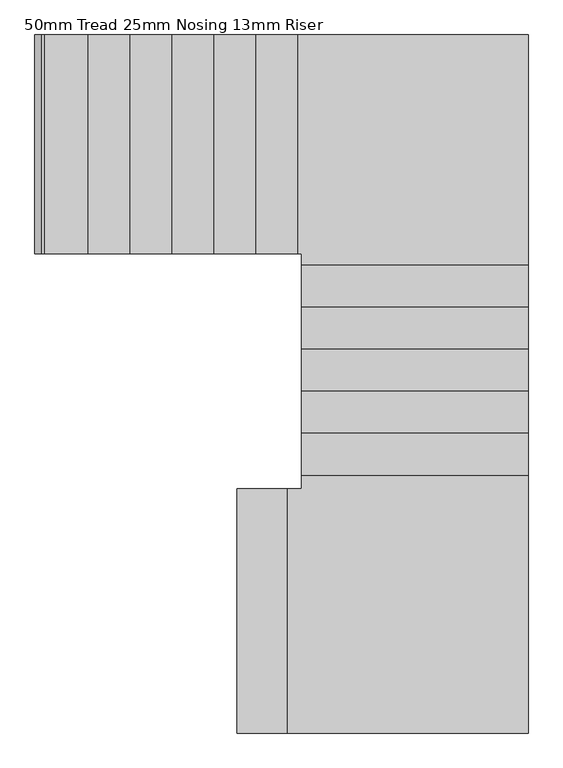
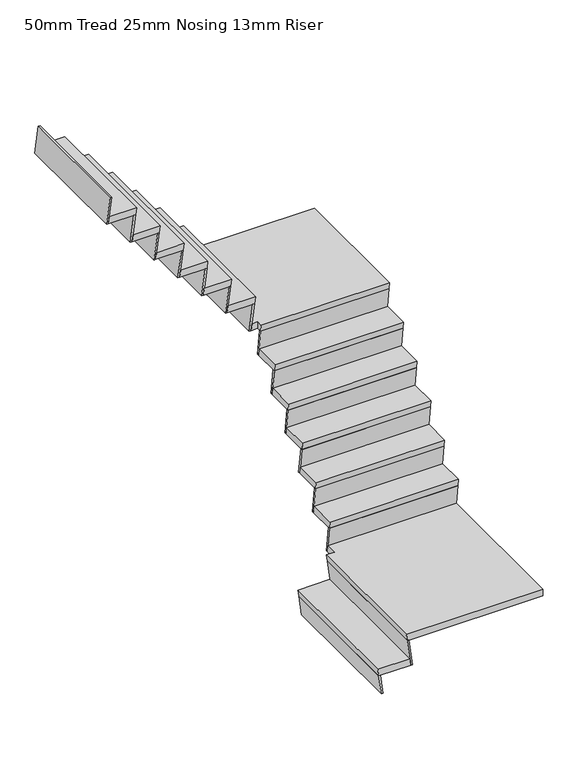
"""IFC4 building model written with IfcOpenShell, lengths in millimetres: stair flight geometry, 50mm Tread 25mm Nosing 13mm Riser."""

from ifc_helpers import new_model, si_unit, origin, place, context, project, spatial, faceted_brep, source, transform, mapped, element, save


def stair_flight_50mm_tread_25mm_nosing_13mm_riser_2104a416(model_context):
    return source(origin(), model_context, "Body", "Brep", [
        faceted_brep([(869.2, -190.5, 193.04), (875.6753419, -190.5, 143.04), (875.6753419, 793.75, 143.04), (869.2, 793.75, 193.04), (641.0, 793.75, 193.04), (641.0, -190.5, 193.04), (647.4753419, -190.5, 143.04), (647.4753419, 793.75, 143.04)], [[[0, 1, 2, 3]], [[3, 4, 5, 0]], [[2, 1, 6, 7]], [[4, 3, 2, 7]], [[0, 5, 6, 1]], [[5, 4, 7, 6]]]),
        faceted_brep([(647.4753419, -190.5, 143.04), (666.0, -190.5, 0.0), (678.6043892, -190.5, 0.0), (660.0797311, -190.5, 143.04), (647.4753419, 793.75, 143.04), (660.0797311, 793.75, 143.04), (678.6043892, 793.75, 0.0), (666.0, 793.75, 0.0)], [[[0, 1, 2, 3]], [[4, 5, 6, 7]], [[1, 0, 4, 7]], [[2, 1, 7, 6]], [[3, 2, 6, 5]], [[0, 3, 5, 4]]]),
        faceted_brep([(850.6753419, -190.5, 336.08), (875.6753419, -190.5, 143.04), (888.2797311, -190.5, 143.04), (863.2797311, -190.5, 336.08), (850.6753419, 793.75, 336.08), (863.2797311, 793.75, 336.08), (888.2797311, 793.75, 143.04), (875.6753419, 793.75, 143.04)], [[[0, 1, 2, 3]], [[4, 5, 6, 7]], [[1, 0, 4, 7]], [[2, 1, 7, 6]], [[3, 2, 6, 5]], [[0, 3, 5, 4]]]),
        faceted_brep([(900.5, 874.3879055, 386.08), (900.5, 793.75, 386.08), (844.2, 793.75, 386.08), (844.2, -190.5, 386.08), (1814.9, -190.5, 386.08), (1814.9, 874.3879055, 386.08), (900.5, 880.8632474, 336.08), (1814.9, 880.8632474, 336.08), (1814.9, -190.5, 336.08), (850.6753419, -190.5, 336.08), (850.6753419, 793.75, 336.08), (900.5, 793.75, 336.08)], [[[0, 1, 2, 3, 4, 5]], [[6, 7, 8, 9, 10, 11]], [[1, 0, 6, 11]], [[4, 3, 9, 8]], [[5, 7, 6, 0]], [[3, 2, 10, 9]], [[2, 1, 11, 10]], [[5, 4, 8, 7]]]),
        faceted_brep([(1814.9, 1703.2298052, 1494.32), (1814.9, 1728.2298052, 1301.28), (1814.9, 1740.8341944, 1301.28), (1814.9, 1715.8341944, 1494.32), (900.5, 1703.2298052, 1494.32), (900.5, 1715.8341944, 1494.32), (900.5, 1740.8341944, 1301.28), (900.5, 1728.2298052, 1301.28)], [[[0, 1, 2, 3]], [[4, 5, 6, 7]], [[1, 0, 4, 7]], [[2, 1, 7, 6]], [[3, 2, 6, 5]], [[0, 3, 5, 4]]]),
        faceted_brep([(860.0268473, 1739.9, 1544.32), (900.5, 1739.9, 1544.32), (900.5, 1696.7544633, 1544.32), (1814.9, 1696.7544633, 1544.32), (1814.9, 2622.55, 1544.32), (860.0268473, 2622.55, 1544.32), (853.5515054, 1739.9, 1494.32), (853.5515054, 2622.55, 1494.32), (1814.9, 2622.55, 1494.32), (1814.9, 1703.2298052, 1494.32), (900.5, 1703.2298052, 1494.32), (900.5, 1739.9, 1494.32)], [[[0, 1, 2, 3, 4, 5]], [[6, 7, 8, 9, 10, 11]], [[1, 0, 6, 11]], [[4, 3, 9, 8]], [[5, 7, 6, 0]], [[3, 2, 10, 9]], [[2, 1, 11, 10]], [[5, 4, 8, 7]]]),
        faceted_brep([(-136.8450463, 2622.55, 2845.6), (-161.8450463, 2622.55, 2652.56), (-174.4494356, 2622.55, 2652.56), (-149.4494356, 2622.55, 2845.6), (-136.8450463, 1739.9, 2845.6), (-149.4494356, 1739.9, 2845.6), (-174.4494356, 1739.9, 2652.56), (-161.8450463, 1739.9, 2652.56)], [[[0, 1, 2, 3]], [[4, 5, 6, 7]], [[1, 0, 4, 7]], [[2, 1, 7, 6]], [[3, 2, 6, 5]], [[0, 3, 5, 4]]]),
        faceted_brep([(1814.9, 855.8632474, 529.12), (1814.9, 880.8632474, 336.08), (1814.9, 893.4676366, 336.08), (1814.9, 868.4676366, 529.12), (900.5, 855.8632474, 529.12), (900.5, 868.4676366, 529.12), (900.5, 893.4676366, 336.08), (900.5, 880.8632474, 336.08)], [[[0, 1, 2, 3]], [[4, 5, 6, 7]], [[1, 0, 4, 7]], [[2, 1, 7, 6]], [[3, 2, 6, 5]], [[0, 3, 5, 4]]]),
        faceted_brep([(900.5, 1043.861217, 579.12), (900.5, 849.3879055, 579.12), (1814.9, 849.3879055, 579.12), (1814.9, 1043.861217, 579.12), (900.5, 1050.3365589, 529.12), (1814.9, 1050.3365589, 529.12), (1814.9, 855.8632474, 529.12), (900.5, 855.8632474, 529.12)], [[[0, 1, 2, 3]], [[4, 5, 6, 7]], [[1, 0, 4, 7]], [[3, 2, 6, 5]], [[3, 5, 4, 0]], [[2, 1, 7, 6]]]),
        faceted_brep([(1814.9, 1025.3365589, 722.16), (1814.9, 1050.3365589, 529.12), (1814.9, 1062.9409482, 529.12), (1814.9, 1037.9409482, 722.16), (900.5, 1025.3365589, 722.16), (900.5, 1037.9409482, 722.16), (900.5, 1062.9409482, 529.12), (900.5, 1050.3365589, 529.12)], [[[0, 1, 2, 3]], [[4, 5, 6, 7]], [[1, 0, 4, 7]], [[2, 1, 7, 6]], [[3, 2, 6, 5]], [[0, 3, 5, 4]]]),
        faceted_brep([(900.5, 1213.3345286, 772.16), (900.5, 1018.861217, 772.16), (1814.9, 1018.861217, 772.16), (1814.9, 1213.3345286, 772.16), (900.5, 1219.8098705, 722.16), (1814.9, 1219.8098705, 722.16), (1814.9, 1025.3365589, 722.16), (900.5, 1025.3365589, 722.16)], [[[0, 1, 2, 3]], [[4, 5, 6, 7]], [[1, 0, 4, 7]], [[3, 2, 6, 5]], [[3, 5, 4, 0]], [[2, 1, 7, 6]]]),
        faceted_brep([(1814.9, 1194.8098705, 915.2), (1814.9, 1219.8098705, 722.16), (1814.9, 1232.4142597, 722.16), (1814.9, 1207.4142597, 915.2), (900.5, 1194.8098705, 915.2), (900.5, 1207.4142597, 915.2), (900.5, 1232.4142597, 722.16), (900.5, 1219.8098705, 722.16)], [[[0, 1, 2, 3]], [[4, 5, 6, 7]], [[1, 0, 4, 7]], [[2, 1, 7, 6]], [[3, 2, 6, 5]], [[0, 3, 5, 4]]]),
        faceted_brep([(900.5, 1382.8078401, 965.2), (900.5, 1188.3345286, 965.2), (1814.9, 1188.3345286, 965.2), (1814.9, 1382.8078401, 965.2), (900.5, 1389.283182, 915.2), (1814.9, 1389.283182, 915.2), (1814.9, 1194.8098705, 915.2), (900.5, 1194.8098705, 915.2)], [[[0, 1, 2, 3]], [[4, 5, 6, 7]], [[1, 0, 4, 7]], [[3, 2, 6, 5]], [[3, 5, 4, 0]], [[2, 1, 7, 6]]]),
        faceted_brep([(1814.9, 1364.283182, 1108.24), (1814.9, 1389.283182, 915.2), (1814.9, 1401.8875713, 915.2), (1814.9, 1376.8875713, 1108.24), (900.5, 1364.283182, 1108.24), (900.5, 1376.8875713, 1108.24), (900.5, 1401.8875713, 915.2), (900.5, 1389.283182, 915.2)], [[[0, 1, 2, 3]], [[4, 5, 6, 7]], [[1, 0, 4, 7]], [[2, 1, 7, 6]], [[3, 2, 6, 5]], [[0, 3, 5, 4]]]),
        faceted_brep([(900.5, 1552.2811517, 1158.24), (900.5, 1357.8078401, 1158.24), (1814.9, 1357.8078401, 1158.24), (1814.9, 1552.2811517, 1158.24), (900.5, 1558.7564936, 1108.24), (1814.9, 1558.7564936, 1108.24), (1814.9, 1364.283182, 1108.24), (900.5, 1364.283182, 1108.24)], [[[0, 1, 2, 3]], [[4, 5, 6, 7]], [[1, 0, 4, 7]], [[3, 2, 6, 5]], [[3, 5, 4, 0]], [[2, 1, 7, 6]]]),
        faceted_brep([(1814.9, 1533.7564936, 1301.28), (1814.9, 1558.7564936, 1108.24), (1814.9, 1571.3608828, 1108.24), (1814.9, 1546.3608828, 1301.28), (900.5, 1533.7564936, 1301.28), (900.5, 1546.3608828, 1301.28), (900.5, 1571.3608828, 1108.24), (900.5, 1558.7564936, 1108.24)], [[[0, 1, 2, 3]], [[4, 5, 6, 7]], [[1, 0, 4, 7]], [[2, 1, 7, 6]], [[3, 2, 6, 5]], [[0, 3, 5, 4]]]),
        faceted_brep([(900.5, 1721.7544633, 1351.28), (900.5, 1527.2811517, 1351.28), (1814.9, 1527.2811517, 1351.28), (1814.9, 1721.7544633, 1351.28), (900.5, 1728.2298052, 1301.28), (1814.9, 1728.2298052, 1301.28), (1814.9, 1533.7564936, 1301.28), (900.5, 1533.7564936, 1301.28)], [[[0, 1, 2, 3]], [[4, 5, 6, 7]], [[1, 0, 4, 7]], [[3, 2, 6, 5]], [[3, 5, 4, 0]], [[2, 1, 7, 6]]]),
        faceted_brep([(878.5515054, 2622.55, 1687.36), (853.5515054, 2622.55, 1494.32), (840.9471161, 2622.55, 1494.32), (865.9471161, 2622.55, 1687.36), (878.5515054, 1739.9, 1687.36), (865.9471161, 1739.9, 1687.36), (840.9471161, 1739.9, 1494.32), (853.5515054, 1739.9, 1494.32)], [[[0, 1, 2, 3]], [[4, 5, 6, 7]], [[1, 0, 4, 7]], [[2, 1, 7, 6]], [[3, 2, 6, 5]], [[0, 3, 5, 4]]]),
        faceted_brep([(690.7940887, 1739.9, 1737.36), (885.0268473, 1739.9, 1737.36), (885.0268473, 2622.55, 1737.36), (690.7940887, 2622.55, 1737.36), (684.3187468, 1739.9, 1687.36), (684.3187468, 2622.55, 1687.36), (878.5515054, 2622.55, 1687.36), (878.5515054, 1739.9, 1687.36)], [[[0, 1, 2, 3]], [[4, 5, 6, 7]], [[1, 0, 4, 7]], [[3, 2, 6, 5]], [[3, 5, 4, 0]], [[2, 1, 7, 6]]]),
        faceted_brep([(709.3187468, 2622.55, 1880.4), (684.3187468, 2622.55, 1687.36), (671.7143575, 2622.55, 1687.36), (696.7143575, 2622.55, 1880.4), (709.3187468, 1739.9, 1880.4), (696.7143575, 1739.9, 1880.4), (671.7143575, 1739.9, 1687.36), (684.3187468, 1739.9, 1687.36)], [[[0, 1, 2, 3]], [[4, 5, 6, 7]], [[1, 0, 4, 7]], [[2, 1, 7, 6]], [[3, 2, 6, 5]], [[0, 3, 5, 4]]]),
        faceted_brep([(521.56133, 1739.9, 1930.4), (715.7940887, 1739.9, 1930.4), (715.7940887, 2622.55, 1930.4), (521.56133, 2622.55, 1930.4), (515.0859882, 1739.9, 1880.4), (515.0859882, 2622.55, 1880.4), (709.3187468, 2622.55, 1880.4), (709.3187468, 1739.9, 1880.4)], [[[0, 1, 2, 3]], [[4, 5, 6, 7]], [[1, 0, 4, 7]], [[3, 2, 6, 5]], [[3, 5, 4, 0]], [[2, 1, 7, 6]]]),
        faceted_brep([(540.0859882, 2622.55, 2073.44), (515.0859882, 2622.55, 1880.4), (502.4815989, 2622.55, 1880.4), (527.4815989, 2622.55, 2073.44), (540.0859882, 1739.9, 2073.44), (527.4815989, 1739.9, 2073.44), (502.4815989, 1739.9, 1880.4), (515.0859882, 1739.9, 1880.4)], [[[0, 1, 2, 3]], [[4, 5, 6, 7]], [[1, 0, 4, 7]], [[2, 1, 7, 6]], [[3, 2, 6, 5]], [[0, 3, 5, 4]]]),
        faceted_brep([(352.3285714, 1739.9, 2123.44), (546.56133, 1739.9, 2123.44), (546.56133, 2622.55, 2123.44), (352.3285714, 2622.55, 2123.44), (345.8532295, 1739.9, 2073.44), (345.8532295, 2622.55, 2073.44), (540.0859882, 2622.55, 2073.44), (540.0859882, 1739.9, 2073.44)], [[[0, 1, 2, 3]], [[4, 5, 6, 7]], [[1, 0, 4, 7]], [[3, 2, 6, 5]], [[3, 5, 4, 0]], [[2, 1, 7, 6]]]),
        faceted_brep([(370.8532295, 2622.55, 2266.48), (345.8532295, 2622.55, 2073.44), (333.2488403, 2622.55, 2073.44), (358.2488403, 2622.55, 2266.48), (370.8532295, 1739.9, 2266.48), (358.2488403, 1739.9, 2266.48), (333.2488403, 1739.9, 2073.44), (345.8532295, 1739.9, 2073.44)], [[[0, 1, 2, 3]], [[4, 5, 6, 7]], [[1, 0, 4, 7]], [[2, 1, 7, 6]], [[3, 2, 6, 5]], [[0, 3, 5, 4]]]),
        faceted_brep([(183.0958128, 1739.9, 2316.48), (377.3285714, 1739.9, 2316.48), (377.3285714, 2622.55, 2316.48), (183.0958128, 2622.55, 2316.48), (176.6204709, 1739.9, 2266.48), (176.6204709, 2622.55, 2266.48), (370.8532295, 2622.55, 2266.48), (370.8532295, 1739.9, 2266.48)], [[[0, 1, 2, 3]], [[4, 5, 6, 7]], [[1, 0, 4, 7]], [[3, 2, 6, 5]], [[3, 5, 4, 0]], [[2, 1, 7, 6]]]),
        faceted_brep([(201.6204709, 2622.55, 2459.52), (176.6204709, 2622.55, 2266.48), (164.0160817, 2622.55, 2266.48), (189.0160817, 2622.55, 2459.52), (201.6204709, 1739.9, 2459.52), (189.0160817, 1739.9, 2459.52), (164.0160817, 1739.9, 2266.48), (176.6204709, 1739.9, 2266.48)], [[[0, 1, 2, 3]], [[4, 5, 6, 7]], [[1, 0, 4, 7]], [[2, 1, 7, 6]], [[3, 2, 6, 5]], [[0, 3, 5, 4]]]),
        faceted_brep([(13.8630542, 1739.9, 2509.52), (208.0958128, 1739.9, 2509.52), (208.0958128, 2622.55, 2509.52), (13.8630542, 2622.55, 2509.52), (7.3877123, 1739.9, 2459.52), (7.3877123, 2622.55, 2459.52), (201.6204709, 2622.55, 2459.52), (201.6204709, 1739.9, 2459.52)], [[[0, 1, 2, 3]], [[4, 5, 6, 7]], [[1, 0, 4, 7]], [[3, 2, 6, 5]], [[3, 5, 4, 0]], [[2, 1, 7, 6]]]),
        faceted_brep([(32.3877123, 2622.55, 2652.56), (7.3877123, 2622.55, 2459.52), (-5.216677, 2622.55, 2459.52), (19.783323, 2622.55, 2652.56), (32.3877123, 1739.9, 2652.56), (19.783323, 1739.9, 2652.56), (-5.216677, 1739.9, 2459.52), (7.3877123, 1739.9, 2459.52)], [[[0, 1, 2, 3]], [[4, 5, 6, 7]], [[1, 0, 4, 7]], [[2, 1, 7, 6]], [[3, 2, 6, 5]], [[0, 3, 5, 4]]]),
        faceted_brep([(-155.3697044, 1739.9, 2702.56), (38.8630542, 1739.9, 2702.56), (38.8630542, 2622.55, 2702.56), (-155.3697044, 2622.55, 2702.56), (-161.8450463, 1739.9, 2652.56), (-161.8450463, 2622.55, 2652.56), (32.3877123, 2622.55, 2652.56), (32.3877123, 1739.9, 2652.56)], [[[0, 1, 2, 3]], [[4, 5, 6, 7]], [[1, 0, 4, 7]], [[3, 2, 6, 5]], [[3, 5, 4, 0]], [[2, 1, 7, 6]]]),
    ])


if __name__ == "__main__":
    model = new_model("IFC4")
    model_context = context("Model", 3, world=origin())
    ifc_project = project(units=[si_unit("LENGTHUNIT", "METRE", prefix="MILLI")], contexts=[model_context])
    site = spatial("IfcSite", under=ifc_project)
    building = spatial("IfcBuilding", under=site)
    placement = place(None, origin())
    stair_flight_50mm_tread_25mm_nosing_13mm_riser_shape = stair_flight_50mm_tread_25mm_nosing_13mm_riser_2104a416(model_context)
    element("IfcStairFlight", 1, ObjectType="50mm Tread 25mm Nosing 13mm Riser", at=placement, inside=building, context=model_context, shape_type="MappedRepresentation", body=[
        mapped(stair_flight_50mm_tread_25mm_nosing_13mm_riser_shape, transform((0.0, 0.0, 0.0), x_axis=(1.0, 0.0, 0.0), y_axis=(0.0, 1.0, 0.0), z_axis=(0.0, 0.0, 1.0))),
    ])
    save(model, "model.ifc")
